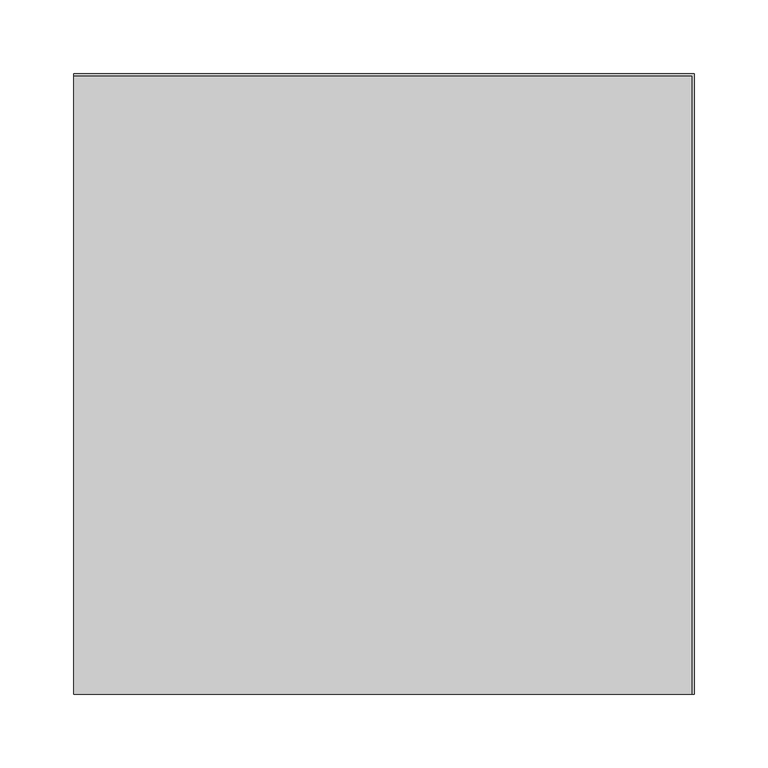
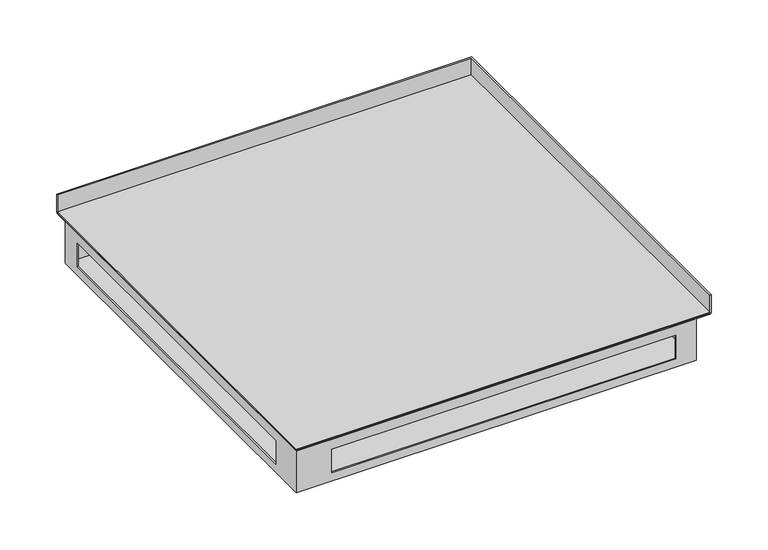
"""IFC4 building model written with IfcOpenShell, lengths in millimetres: proxy geometry, TECHNO_Угловой элемент_KVU : 420_065_90°."""

from ifc_helpers import new_model, si_unit, frame, origin, place, context, project, spatial, polyline, circle_curve, ellipse_curve, outline, extrude, source, transform, mapped, element, save
from ifc_brep_helpers import plane_surface, cylinder_surface, advanced_brep


def mechanical_equipment_346dda6b(model_context):
    return source(origin(), model_context, "Body", "SolidModel", [
        extrude(outline(polyline([(0.0, 208.8), (418.8, 208.8), (418.8, -210.0), (0.0, -210.0), (0.0, 208.8)])), frame((0.0, 0.0, -19.3), z_axis=(0.0, 0.0, 1.0), x_axis=(1.0, 0.0, 0.0)), (0.0, 0.0, 1.0), 1.2),
        advanced_brep(
        [(1.2, 194.0, -63.8), (1.2, -208.8, -63.8), (404.0, -208.8, -63.8), (404.0, 194.0, -63.8), (0.0, 195.2, -65.0), (405.2, 195.2, -65.0), (405.2, -210.0, -65.0), (0.0, -210.0, -65.0), (0.0, 195.2, -20.5), (0.0, -210.0, -20.5), (0.0, 194.0, -20.5), (0.0, 195.2, -19.3), (0.0, 208.8, -19.3), (0.0, 208.8, 0.0), (0.0, 210.0, 0.0), (0.0, 210.0, -19.3), (0.0, 208.8, -20.5), (0.0, -174.0, -31.0), (0.0, -174.0, -56.0), (0.0, 174.4, -56.0), (0.0, 174.4, -31.0), (405.2, -210.0, -20.5), (418.8, -210.0, -20.5), (420.0, -210.0, -19.3), (420.0, -210.0, 0.0), (418.8, -210.0, 0.0), (418.8, -210.0, -19.3), (405.2, -210.0, -19.3), (404.0, -210.0, -20.5), (36.0, -210.0, -56.0), (36.0, -210.0, -31.0), (384.4, -210.0, -31.0), (384.4, -210.0, -56.0), (405.2, 195.2, -20.5), (1.2, 195.2, -19.3), (1.2, -208.8, -19.3), (405.2, -208.8, -19.3), (418.8, 208.8, -19.3), (405.2, -194.0, -19.3), (16.0, -194.0, -19.3), (16.0, 195.2, -19.3), (405.2, 195.2, -19.3), (16.0, -194.0, -20.5), (16.0, 194.0, -20.5), (404.0, -194.0, -20.5), (404.0, -208.8, -20.5), (1.2, -208.8, -20.5), (1.2, 194.0, -20.5), (1.2, -174.0, -56.0), (1.2, -174.0, -31.0), (1.2, 174.4, -31.0), (1.2, 174.4, -56.0), (36.0, -208.8, -31.0), (36.0, -208.8, -56.0), (384.4, -208.8, -56.0), (384.4, -208.8, -31.0), (420.0, 210.0, -19.3), (420.0, 210.0, 0.0), (418.8, 208.8, 0.0), (418.8, 208.8, -20.5), (404.0, 194.0, -20.5)],
        [
            (0, 1),
            (1, 2),
            (2, 3),
            (3, 0),
            (4, 5),
            (5, 6),
            (6, 7),
            (7, 4),
            (8, 4),
            (7, 9),
            (9, 10),
            (10, 11, circle_curve(frame((0.0, 195.2, -20.5), z_axis=(-1.0, 0.0, 0.0), x_axis=(0.0, -1.0, 0.0)), 1.2)),
            (11, 12),
            (12, 13),
            (13, 14),
            (14, 15),
            (15, 16, circle_curve(frame((0.0, 208.8, -19.3), z_axis=(-1.0, 0.0, 0.0), x_axis=(0.0, -1.0, 0.0)), 1.2)),
            (16, 8),
            (17, 18),
            (18, 19),
            (19, 20),
            (20, 17),
            (6, 21),
            (21, 22),
            (22, 23, circle_curve(frame((418.8, -210.0, -19.3), z_axis=(0.0, -1.0, 0.0), x_axis=(-1.0, 0.0, 0.0)), 1.2)),
            (23, 24),
            (24, 25),
            (25, 26),
            (26, 27),
            (27, 28, circle_curve(frame((405.2, -210.0, -20.5), z_axis=(0.0, -1.0, 0.0), x_axis=(-1.0, 0.0, 0.0)), 1.2)),
            (28, 9),
            (29, 30),
            (30, 31),
            (31, 32),
            (32, 29),
            (8, 33),
            (33, 5),
            (33, 21),
            (34, 35),
            (35, 36),
            (36, 27),
            (26, 37),
            (37, 12),
            (11, 34),
            (38, 39),
            (39, 40),
            (40, 41),
            (41, 38),
            (39, 42),
            (42, 43),
            (43, 40, circle_curve(frame((16.0, 195.2, -20.5), z_axis=(-1.0, 0.0, 0.0), x_axis=(0.0, -1.0, 0.0)), 1.2)),
            (38, 44, circle_curve(frame((405.2, -194.0, -20.5), z_axis=(0.0, -1.0, 0.0), x_axis=(-1.0, 0.0, 0.0)), 1.2)),
            (44, 42),
            (44, 45),
            (45, 46),
            (46, 47),
            (47, 43),
            (46, 1),
            (0, 47),
            (48, 49),
            (49, 50),
            (50, 51),
            (51, 48),
            (45, 2),
            (52, 53),
            (53, 54),
            (54, 55),
            (55, 52),
            (34, 10, ellipse_curve(frame((1.2, 195.2, -20.5), z_axis=(0.7071067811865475, -0.7071067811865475, 0.0), x_axis=(0.7071067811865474, 0.7071067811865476, 0.0)), 1.6970563, 1.2)),
            (9, 35, ellipse_curve(frame((1.2, -208.8, -20.5), z_axis=(-0.7071067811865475, 0.7071067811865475, 0.0), x_axis=(0.7071067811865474, 0.7071067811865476, 0.0)), 1.6970563, 1.2)),
            (28, 36, ellipse_curve(frame((405.2, -208.8, -20.5), z_axis=(-0.7071067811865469, 0.7071067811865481, 0.0), x_axis=(-0.7071067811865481, -0.7071067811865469, 0.0)), 1.6970563, 1.2)),
            (23, 56),
            (56, 57),
            (57, 24),
            (57, 14),
            (13, 58),
            (58, 25),
            (58, 37),
            (16, 59),
            (59, 22),
            (59, 56, ellipse_curve(frame((418.8, 208.8, -19.3), z_axis=(0.7071067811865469, -0.7071067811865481, 0.0), x_axis=(-0.7071067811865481, -0.7071067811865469, 0.0)), 1.6970563, 1.2)),
            (56, 15),
            (41, 60, ellipse_curve(frame((405.2, 195.2, -20.5), z_axis=(0.7071067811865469, -0.7071067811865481, 0.0), x_axis=(-0.7071067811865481, -0.7071067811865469, 0.0)), 1.6970563, 1.2)),
            (60, 44),
            (60, 3),
            (43, 60),
            (48, 18),
            (17, 49),
            (51, 19),
            (50, 20),
            (52, 30),
            (29, 53),
            (55, 31),
            (54, 32),
        ],
        [
            plane_surface(frame((0.0, 194.0, -63.8), z_axis=(0.0, 0.0, 1.0), x_axis=(0.0, -1.0, 0.0))),
            plane_surface(frame((0.0, 194.0, -65.0), z_axis=(0.0, 0.0, -1.0), x_axis=(0.0, 1.0, 0.0))),
            plane_surface(frame((0.0, 194.0, -63.8), z_axis=(-1.0, 0.0, 0.0), x_axis=(0.0, 0.0, -1.0))),
            plane_surface(frame((0.0, -210.0, -63.8), z_axis=(0.0, -1.0, 0.0), x_axis=(0.0, 0.0, -1.0))),
            plane_surface(frame((0.0, 195.2, -65.0), z_axis=(0.0, 1.0, 0.0), x_axis=(0.0, 0.0, -1.0))),
            plane_surface(frame((405.2, -210.0, -65.0), z_axis=(1.0, 0.0, 0.0), x_axis=(0.0, 0.0, -1.0))),
            plane_surface(frame((1.2, 195.2, -19.3), z_axis=(0.0, 0.0, 1.0), x_axis=(0.0, -1.0, 0.0))),
            plane_surface(frame((16.0, 195.2, -19.3), z_axis=(1.0, 0.0, 0.0), x_axis=(0.0, -1.0, 0.0))),
            plane_surface(frame((16.0, -194.0, -19.3), z_axis=(0.0, 1.0, 0.0), x_axis=(1.0, 0.0, 0.0))),
            plane_surface(frame((16.0, 195.2, -20.5), z_axis=(0.0, 0.0, -1.0), x_axis=(0.0, -1.0, 0.0))),
            plane_surface(frame((1.2, 195.2, -20.5), z_axis=(1.0, 0.0, 0.0), x_axis=(0.0, -1.0, 0.0))),
            plane_surface(frame((1.2, -208.8, -20.5), z_axis=(0.0, 1.0, 0.0), x_axis=(1.0, 0.0, 0.0))),
            cylinder_surface(frame((1.2, 195.2, -20.5), z_axis=(0.0, 1.0, 0.0), x_axis=(-1.0, 0.0, 0.0)), 1.2),
            cylinder_surface(frame((0.0, -208.8, -20.5), z_axis=(-1.0, 0.0, 0.0), x_axis=(0.0, -1.0, 0.0)), 1.2),
            plane_surface(frame((420.0, -210.0, -19.3), z_axis=(1.0, 0.0, 0.0), x_axis=(0.0, 1.0, 0.0))),
            plane_surface(frame((420.0, -210.0, 0.0), z_axis=(0.0, 0.0, 1.0), x_axis=(0.0, 1.0, 0.0))),
            plane_surface(frame((418.8, -210.0, 0.0), z_axis=(-1.0, 0.0, 0.0), x_axis=(0.0, 1.0, 0.0))),
            plane_surface(frame((405.2, -210.0, -20.5), z_axis=(0.0, 0.0, -1.0), x_axis=(0.0, 1.0, 0.0))),
            cylinder_surface(frame((418.8, -210.0, -19.3), z_axis=(0.0, -1.0, 0.0), x_axis=(-1.0, 0.0, 0.0)), 1.2),
            plane_surface(frame((420.0, 210.0, -19.3), z_axis=(0.0, 1.0, 0.0), x_axis=(-1.0, 0.0, 0.0))),
            plane_surface(frame((418.8, 208.8, 0.0), z_axis=(0.0, -1.0, 0.0), x_axis=(-1.0, 0.0, 0.0))),
            cylinder_surface(frame((210.0, 208.8, -19.3), z_axis=(1.0, 0.0, 0.0), x_axis=(0.0, -1.0, 0.0)), 1.2),
            cylinder_surface(frame((405.2, -210.0, -20.5), z_axis=(0.0, -1.0, 0.0), x_axis=(-1.0, 0.0, 0.0)), 1.2),
            plane_surface(frame((404.0, -210.0, -20.5), z_axis=(-1.0, 0.0, 0.0), x_axis=(0.0, 1.0, 0.0))),
            cylinder_surface(frame((210.0, 195.2, -20.5), z_axis=(1.0, 0.0, 0.0), x_axis=(0.0, -1.0, 0.0)), 1.2),
            plane_surface(frame((404.0, 194.0, -20.5), z_axis=(0.0, -1.0, 0.0), x_axis=(-1.0, 0.0, 0.0))),
            plane_surface(frame((1.2, -174.0, -31.0), z_axis=(0.0, 1.0, 0.0), x_axis=(-1.0, 0.0, 0.0))),
            plane_surface(frame((1.2, -174.0, -56.0), z_axis=(0.0, 0.0, 1.0), x_axis=(-1.0, 0.0, 0.0))),
            plane_surface(frame((1.2, 174.4, -56.0), z_axis=(0.0, -1.0, 0.0), x_axis=(-1.0, 0.0, 0.0))),
            plane_surface(frame((1.2, 174.4, -31.0), z_axis=(0.0, 0.0, -1.0), x_axis=(-1.0, 0.0, 0.0))),
            plane_surface(frame((36.0, -208.8, -56.0), z_axis=(1.0, 0.0, 0.0), x_axis=(0.0, -1.0, 0.0))),
            plane_surface(frame((36.0, -208.8, -31.0), z_axis=(0.0, 0.0, -1.0), x_axis=(0.0, -1.0, 0.0))),
            plane_surface(frame((384.4, -208.8, -31.0), z_axis=(-1.0, 0.0, 0.0), x_axis=(0.0, -1.0, 0.0))),
            plane_surface(frame((384.4, -208.8, -56.0), z_axis=(0.0, 0.0, 1.0), x_axis=(0.0, -1.0, 0.0))),
        ],
        [
            (0, [[1, 2, 3, 4]]),
            (1, [[5, 6, 7, 8]]),
            (2, [[9, -8, 10, 11, 12, 13, 14, 15, 16, 17, 18], [19, 20, 21, 22]]),
            (3, [[23, 24, 25, 26, 27, 28, 29, 30, 31, -10, -7], [32, 33, 34, 35]]),
            (4, [[-9, 36, 37, -5]]),
            (5, [[-23, -6, -37, 38]]),
            (6, [[39, 40, 41, -29, 42, 43, -13, 44], [45, 46, 47, 48]]),
            (7, [[-46, 49, 50, 51]]),
            (8, [[-45, 52, 53, -49]]),
            (9, [[-50, -53, 54, 55, 56, 57]]),
            (10, [[58, -1, 59, -56], [60, 61, 62, 63]]),
            (11, [[-58, -55, 64, -2], [65, 66, 67, 68]]),
            (12, [[-39, 69, -11, 70]]),
            (13, [[-40, -70, -31, 71]]),
            (14, [[-26, 72, 73, 74]]),
            (15, [[-27, -74, 75, -15, 76, 77]]),
            (16, [[-28, -77, 78, -42]]),
            (17, [[-24, -38, -36, -18, 79, 80]]),
            (18, [[-25, -80, 81, -72]]),
            (19, [[-73, 82, -16, -75]]),
            (20, [[-76, -14, -43, -78]]),
            (21, [[-79, -17, -82, -81]]),
            (22, [[-30, -41, -71]]),
            (22, [[83, 84, -52, -48]]),
            (23, [[85, -3, -64, -54, -84]]),
            (24, [[-12, -69, -44]]),
            (24, [[-83, -47, -51, 86]]),
            (25, [[-85, -86, -57, -59, -4]]),
            (26, [[87, -19, 88, -60]]),
            (27, [[-87, -63, 89, -20]]),
            (28, [[-89, -62, 90, -21]]),
            (29, [[-88, -22, -90, -61]]),
            (30, [[91, -32, 92, -65]]),
            (31, [[-91, -68, 93, -33]]),
            (32, [[-93, -67, 94, -34]]),
            (33, [[-92, -35, -94, -66]]),
        ],
    ),
    ])


if __name__ == "__main__":
    model = new_model("IFC4")
    model_context = context("Model", 3, world=origin())
    ifc_project = project(units=[si_unit("LENGTHUNIT", "METRE", prefix="MILLI")], contexts=[model_context])
    site = spatial("IfcSite", under=ifc_project)
    building = spatial("IfcBuilding", under=site)
    placement = place(None, origin())
    mechanical_equipment_shape = mechanical_equipment_346dda6b(model_context)
    element("IfcBuildingElementProxy", 1, Name="TECHNO_Угловой элемент_KVU : 420_065_90°", ObjectType="TECHNO_Угловой элемент_KVU : 420_065_90°", at=placement, inside=building, context=model_context, shape_type="MappedRepresentation", body=[
        mapped(mechanical_equipment_shape, transform((0.0, 0.0, 0.0), x_axis=(1.0, 0.0, 0.0), y_axis=(0.0, 1.0, 0.0), z_axis=(0.0, 0.0, 1.0))),
    ])
    save(model, "model.ifc")
